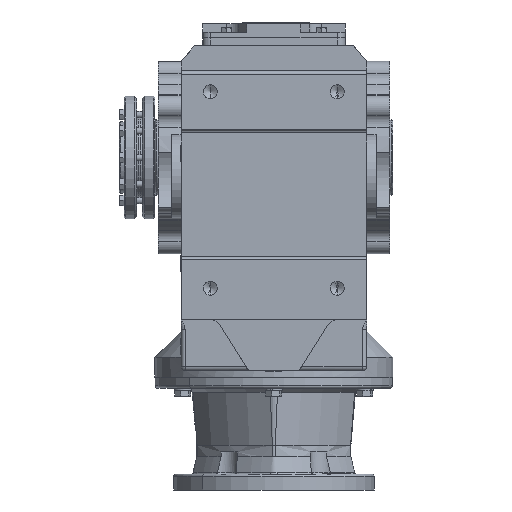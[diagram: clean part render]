
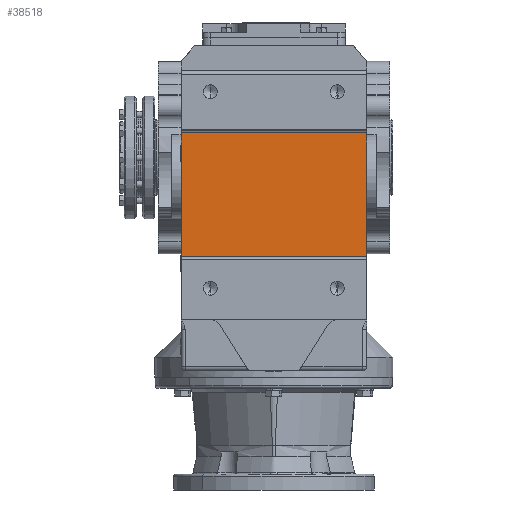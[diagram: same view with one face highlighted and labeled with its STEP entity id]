
A CAD part, front view. The second image highlights one B-rep face of the part: STEP entity #38518.
In plain terms, the highlighted planar face has unit normal (0, -1, 0).
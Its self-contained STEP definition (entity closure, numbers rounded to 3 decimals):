
#12876 = VECTOR ( 'NONE', #54400, 1000. ) ;
#12878 = LINE ( 'NONE', #54399, #12876 ) ;
#12959 = VECTOR ( 'NONE', #45479, 1000. ) ;
#12961 = VECTOR ( 'NONE', #45476, 1000. ) ;
#12962 = LINE ( 'NONE', #45477, #12959 ) ;
#12963 = VECTOR ( 'NONE', #45453, 1000. ) ;
#12965 = LINE ( 'NONE', #45454, #12963 ) ;
#12980 = LINE ( 'NONE', #45471, #12961 ) ;
#14148 = FACE_OUTER_BOUND ( 'NONE', #50878, .T. ) ;
#22915 = VERTEX_POINT ( 'NONE', #43154 ) ;
#23091 = VERTEX_POINT ( 'NONE', #43330 ) ;
#23096 = VERTEX_POINT ( 'NONE', #43335 ) ;
#23116 = VERTEX_POINT ( 'NONE', #43355 ) ;
#26926 = ORIENTED_EDGE ( 'NONE', *, *, #46178, .F. ) ;
#26930 = ORIENTED_EDGE ( 'NONE', *, *, #46176, .F. ) ;
#26934 = ORIENTED_EDGE ( 'NONE', *, *, #46174, .T. ) ;
#26938 = ORIENTED_EDGE ( 'NONE', *, *, #46286, .T. ) ;
#36139 = CARTESIAN_POINT ( 'NONE',  ( -145., -260., 31. ) ) ;
#36152 = PLANE ( 'NONE',  #40779 ) ;
#36158 = DIRECTION ( 'NONE',  ( 0., -1., 0. ) ) ;
#36160 = DIRECTION ( 'NONE',  ( 0., 0., -1. ) ) ;
#38518 = ADVANCED_FACE ( 'NONE', ( #14148 ), #36152, .T. ) ;
#40779 = AXIS2_PLACEMENT_3D ( 'NONE', #36139, #36158, #36160 ) ;
#43154 = CARTESIAN_POINT ( 'NONE',  ( 117., -260., 31. ) ) ;
#43330 = CARTESIAN_POINT ( 'NONE',  ( -117., -260., -125. ) ) ;
#43335 = CARTESIAN_POINT ( 'NONE',  ( -117., -260., 31. ) ) ;
#43355 = CARTESIAN_POINT ( 'NONE',  ( 117., -260., -125. ) ) ;
#45453 = DIRECTION ( 'NONE',  ( 1., 0., 0. ) ) ;
#45454 = CARTESIAN_POINT ( 'NONE',  ( -145., -260., -125. ) ) ;
#45471 = CARTESIAN_POINT ( 'NONE',  ( -117., -260., 31. ) ) ;
#45476 = DIRECTION ( 'NONE',  ( 0., 0., 1. ) ) ;
#45477 = CARTESIAN_POINT ( 'NONE',  ( -145., -260., 31. ) ) ;
#45479 = DIRECTION ( 'NONE',  ( 1., 0., 0. ) ) ;
#46174 = EDGE_CURVE ( 'NONE', #23091, #23116, #12965, .T. ) ;
#46176 = EDGE_CURVE ( 'NONE', #23091, #23096, #12980, .T. ) ;
#46178 = EDGE_CURVE ( 'NONE', #23096, #22915, #12962, .T. ) ;
#46286 = EDGE_CURVE ( 'NONE', #23116, #22915, #12878, .T. ) ;
#50878 = EDGE_LOOP ( 'NONE', ( #26926, #26930, #26934, #26938 ) ) ;
#54399 = CARTESIAN_POINT ( 'NONE',  ( 117., -260., 31. ) ) ;
#54400 = DIRECTION ( 'NONE',  ( 0., 0., 1. ) ) ;
